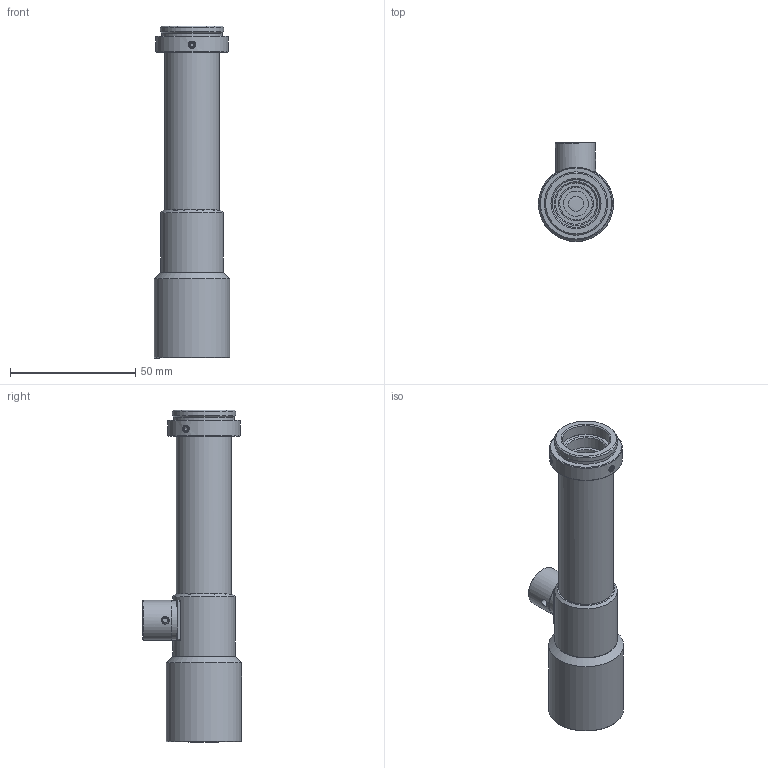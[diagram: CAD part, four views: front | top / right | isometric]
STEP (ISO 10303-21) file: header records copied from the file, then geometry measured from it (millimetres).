
FILE_DESCRIPTION(('STEP AP214'),'1');
FILE_NAME('RTK-4F-M110.stp','2026-08-03T02:40:52',(' '),(' '),'Spatial InterOp 3D',' ',' ');
FILE_SCHEMA(('AUTOMOTIVE_DESIGN { 1 0 10303 214 1 1 1 1 }'));
Length unit declared in the file: metre
Products named in the file (2): RTK-4F-M110; Component1
Assembly tree (1 placements, depth 2):
  RTK-4F-M110
    Component1
Bounding box: 30 x 39.58 x 132.67 mm (x, y, z)
Volume: 36362.8 mm3; surface area: 23773.6 mm2
Topology: 1 solids, 11 shells, 340 faces, 804 edges, 526 vertices
Faces by surface type: plane 169, cone 85, cylinder 69, torus 8, sphere 6, bspline 3
Full cylindrical faces by diameter (mm): 1.7 x8, 1.8 x4, 3 x3, 6 x1, 6.5 x1, 8 x1, 9 x1, 10 x1, 11 x1, 12 x1, 13 x1, 13.9 x1, 14 x1, 14.2 x1, 14.7 x1, 14.8 x1, 15.5 x1, 16 x1, 16.5 x2, 17.2 x1, 17.4 x2, 18.2 x1, 19 x2, 19.02 x1, 20.2 x1, 21 x1, 21.8 x1, 22 x6, 24.12 x1, 25 x3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
Entity records: 12372 total; most frequent: CARTESIAN_POINT 2427, DIRECTION 1536, ORIENTED_EDGE 1276, AXIS2_PLACEMENT_3D 652, EDGE_CURVE 638, EDGE_LOOP 514, VERTEX_POINT 476, FACE_OUTER_BOUND 407
